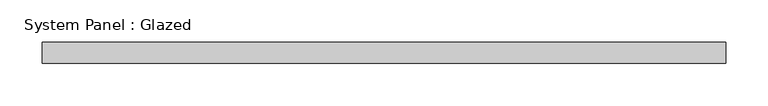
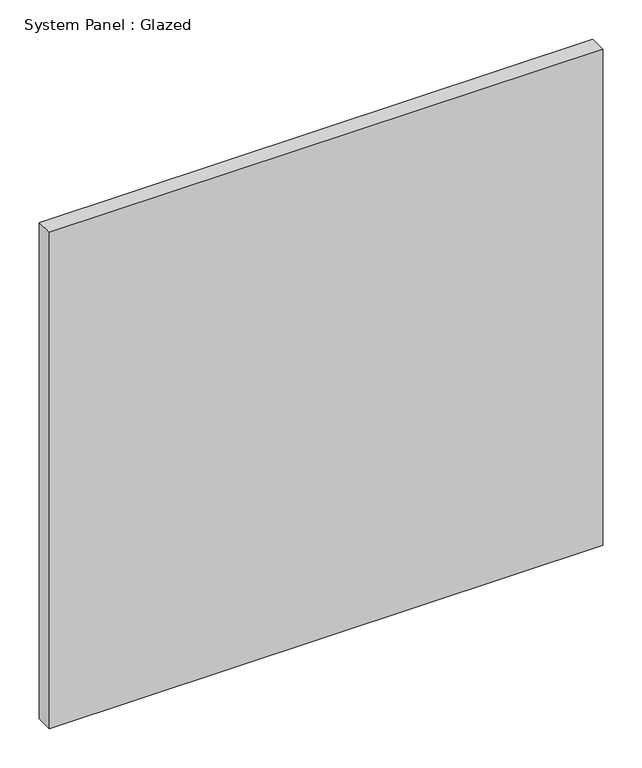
"""IFC4 building model written with IfcOpenShell, lengths in millimetres: plate geometry, System Panel : Glazed."""

from ifc_helpers import new_model, si_unit, origin, origin_with_axes, place, context, project, spatial, polyline, outline, extrude, source, transform, mapped, element, save


def system_panel_glazed_abada4d6(model_context):
    return source(origin(), model_context, "Body", "SweptSolid", [
        extrude(outline(polyline([(406.4, 19.05), (-406.4, 19.05), (-406.4, 44.45), (406.4, 44.45), (406.4, 19.05)])), origin_with_axes(), (0.0, 0.0, 1.0), 770.6690025),
    ])


if __name__ == "__main__":
    model = new_model("IFC4")
    model_context = context("Model", 3, world=origin())
    ifc_project = project(units=[si_unit("LENGTHUNIT", "METRE", prefix="MILLI")], contexts=[model_context])
    site = spatial("IfcSite", under=ifc_project)
    building = spatial("IfcBuilding", under=site)
    placement = place(None, origin())
    system_panel_glazed_shape = system_panel_glazed_abada4d6(model_context)
    element("IfcPlate", 1, ObjectType="System Panel : Glazed", at=placement, inside=building, context=model_context, shape_type="MappedRepresentation", body=[
        mapped(system_panel_glazed_shape, transform((0.0, 0.0, 0.0), x_axis=(1.0, 0.0, 0.0), y_axis=(0.0, 1.0, 0.0), z_axis=(0.0, 0.0, 1.0))),
    ])
    save(model, "model.ifc")
